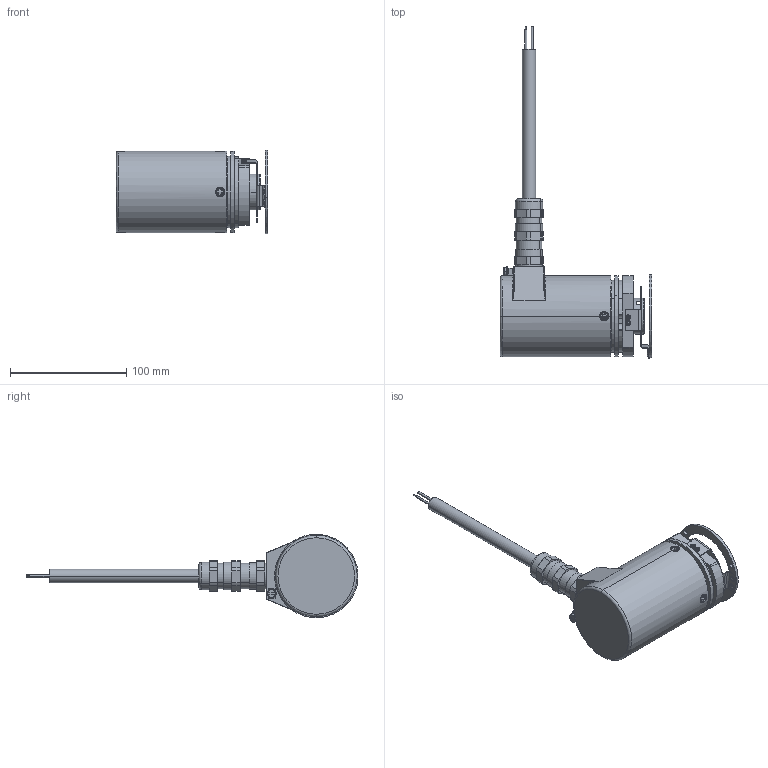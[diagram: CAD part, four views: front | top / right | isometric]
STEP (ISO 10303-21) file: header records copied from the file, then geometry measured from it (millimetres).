
FILE_DESCRIPTION (( 'STEP AP214' ), '1' );
FILE_NAME ('8.7020.52x2.xxxx.STEP', '2015-04-27T06:28:34', ( 'admin' ), ( 'Microsoft' ), 'SwSTEP 2.0', 'SolidWorks 2013', '' );
FILE_SCHEMA (( 'AUTOMOTIVE_DESIGN' ));
Length unit declared in the file: millimetre
Products named in the file (1): 8.7020.52x2.xxxx
Bounding box: 130.9 x 286.17 x 71.93 mm (x, y, z)
Surface area: 66346.5 mm2 (no closed solid volume)
Topology: 0 solids, 38 shells, 406 faces, 1199 edges, 827 vertices
Faces by surface type: cylinder 170, plane 162, cone 41, torus 25, bspline 4, sphere 4
Entity records: 19611 total; most frequent: CARTESIAN_POINT 4141, DIRECTION 2411, ORIENTED_EDGE 2022, EDGE_CURVE 1195, AXIS2_PLACEMENT_3D 913, VERTEX_POINT 827, VECTOR 585, LINE 585
